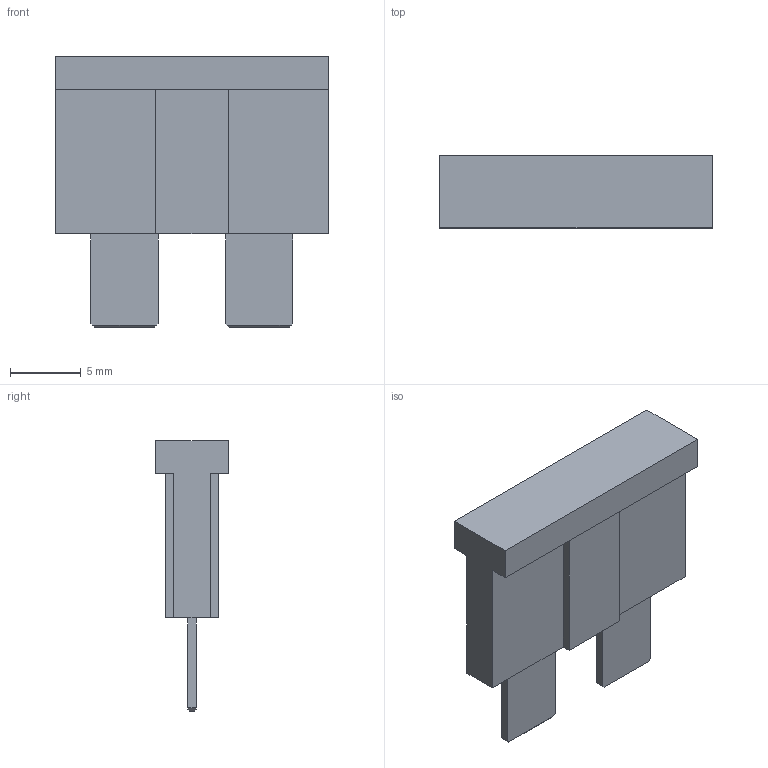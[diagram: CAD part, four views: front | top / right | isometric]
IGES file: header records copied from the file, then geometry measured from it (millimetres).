
Global section: file name: No Iges File Name specified; native system: AutoDesk Inventor R6.0; preprocessor: AutoDesk Inventor Iges Exporter R6.0; author: No Author specified; organization: No Organization specified; date: 20060106.164954; units: inch
Bounding box: 19.22 x 5.08 x 19.08 mm (x, y, z)
Surface area: 913.4 mm2 (no closed solid volume)
Topology: 0 solids, 0 shells, 36 faces, 192 edges, 192 vertices
Faces by surface type: plane 36
